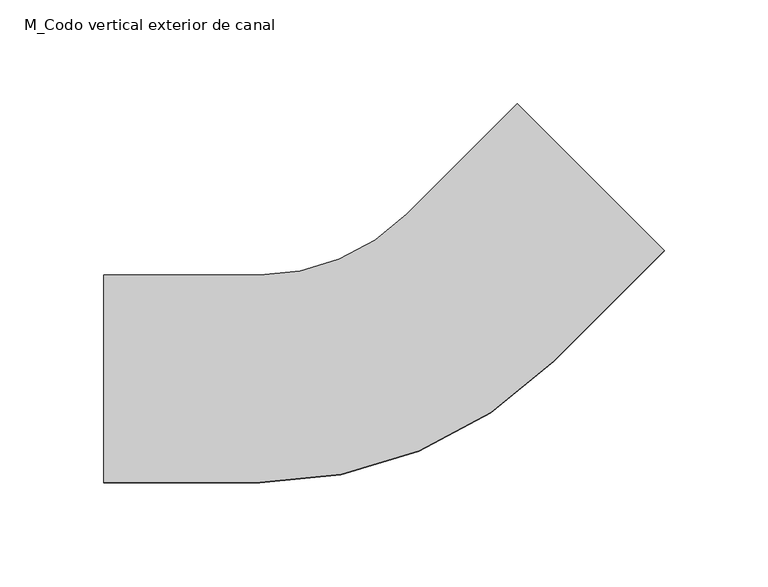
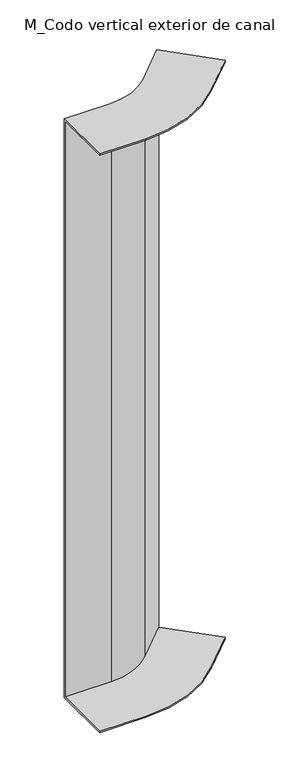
"""IFC4 building model written with IfcOpenShell, lengths in millimetres: cable carrier fitting geometry, M_Codo vertical exterior de canal : Gasos."""

from ifc_helpers import new_model, si_unit, frame, origin, place, context, project, spatial, polyline, circle_curve, source, transform, mapped, element, save
from ifc_brep_helpers import plane_surface, cylinder_surface, revolved_surface, advanced_brep


def m_codo_vertical_exterior_de_canal_8e3e9273(model_context):
    return source(origin(), model_context, "Body", "AdvancedBrep", [
        advanced_brep(
        [(-137.1320344, -50.0, 500.0), (-137.1320344, 50.0, 500.0), (-137.1320344, 50.0, -500.0), (-137.1320344, -50.0, -500.0), (-137.1320344, -50.0, -497.46), (-137.1320344, 47.46, -497.46), (-137.1320344, 47.46, 497.46), (-137.1320344, -50.0, 497.46), (132.3223305, 61.6116524, 500.0), (132.3223305, 61.6116524, 497.46), (63.4077036, 130.5262793, 497.46), (63.4077036, 130.5262793, -497.46), (132.3223305, 61.6116524, -497.46), (132.3223305, 61.6116524, -500.0), (61.6116524, 132.3223305, -500.0), (61.6116524, 132.3223305, 500.0), (-62.1320344, -50.0, 500.0), (79.2893219, 8.5786438, 500.0), (8.5786438, 79.2893219, 500.0), (-62.1320344, 50.0, 500.0), (-62.1320344, 50.0, -500.0), (8.5786438, 79.2893219, -500.0), (79.2893219, 8.5786438, -500.0), (-62.1320344, -50.0, -500.0), (-62.1320344, -50.0, -497.46), (79.2893219, 8.5786438, -497.46), (10.374695, 77.4932707, -497.46), (-62.1320344, 47.46, -497.46), (-62.1320344, 47.46, 497.46), (10.374695, 77.4932707, 497.46), (79.2893219, 8.5786438, 497.46), (-62.1320344, -50.0, 497.46)],
        [
            (0, 1),
            (1, 2),
            (2, 3),
            (3, 4),
            (4, 5),
            (5, 6),
            (6, 7),
            (7, 0),
            (8, 9),
            (9, 10),
            (10, 11),
            (11, 12),
            (12, 13),
            (13, 14),
            (14, 15),
            (15, 8),
            (0, 16),
            (16, 17, circle_curve(frame((-62.1320344, 150.0, 500.0), z_axis=(0.0, 0.0, 1.0), x_axis=(0.0, -1.0, 0.0)), 200.0)),
            (17, 8),
            (15, 18),
            (18, 19, circle_curve(frame((-62.1320344, 150.0, 500.0), z_axis=(0.0, 0.0, -1.0), x_axis=(0.0, -1.0, 0.0)), 100.0)),
            (19, 1),
            (19, 20),
            (20, 2),
            (20, 21, circle_curve(frame((-62.1320344, 150.0, -500.0), z_axis=(0.0, 0.0, 1.0), x_axis=(0.0, -1.0, 0.0)), 100.0)),
            (21, 14),
            (13, 22),
            (22, 23, circle_curve(frame((-62.1320344, 150.0, -500.0), z_axis=(0.0, 0.0, -1.0), x_axis=(0.0, -1.0, 0.0)), 200.0)),
            (23, 3),
            (23, 24),
            (24, 4),
            (24, 25, circle_curve(frame((-62.1320344, 150.0, -497.46), z_axis=(0.0, 0.0, 1.0), x_axis=(0.0, -1.0, 0.0)), 200.0)),
            (25, 12),
            (11, 26),
            (26, 27, circle_curve(frame((-62.1320344, 150.0, -497.46), z_axis=(0.0, 0.0, -1.0), x_axis=(0.0, -1.0, 0.0)), 102.54)),
            (27, 5),
            (27, 28),
            (28, 6),
            (28, 29, circle_curve(frame((-62.1320344, 150.0, 497.46), z_axis=(0.0, 0.0, 1.0), x_axis=(0.0, -1.0, 0.0)), 102.54)),
            (29, 10),
            (9, 30),
            (30, 31, circle_curve(frame((-62.1320344, 150.0, 497.46), z_axis=(0.0, 0.0, -1.0), x_axis=(0.0, -1.0, 0.0)), 200.0)),
            (31, 7),
            (31, 16),
            (18, 21),
            (22, 25),
            (26, 29),
            (30, 17),
        ],
        [
            plane_surface(frame((-137.1320344, 0.0, 0.0), z_axis=(-1.0, 0.0, 0.0), x_axis=(0.0, 0.0, 1.0))),
            plane_surface(frame((96.9669914, 96.9669914, 0.0), z_axis=(0.7071067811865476, 0.7071067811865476, 0.0), x_axis=(0.0, 0.0, 1.0))),
            plane_surface(frame((-137.1320344, -50.0, 500.0), z_axis=(0.0, 0.0, 1.0), x_axis=(1.0, 0.0, 0.0))),
            plane_surface(frame((-137.1320344, 50.0, 500.0), z_axis=(0.0, 1.0, 0.0), x_axis=(1.0, 0.0, 0.0))),
            plane_surface(frame((-137.1320344, 50.0, -500.0), z_axis=(0.0, 0.0, -1.0), x_axis=(1.0, 0.0, 0.0))),
            plane_surface(frame((-137.1320344, -50.0, -500.0), z_axis=(0.0, -1.0, 0.0), x_axis=(1.0, 0.0, 0.0))),
            plane_surface(frame((-137.1320344, -50.0, -497.46), z_axis=(0.0, 0.0, 1.0), x_axis=(1.0, 0.0, 0.0))),
            plane_surface(frame((-137.1320344, 47.46, -497.46), z_axis=(0.0, -1.0, 0.0), x_axis=(1.0, 0.0, 0.0))),
            plane_surface(frame((-137.1320344, 47.46, 497.46), z_axis=(0.0, 0.0, -1.0), x_axis=(1.0, 0.0, 0.0))),
            plane_surface(frame((-137.1320344, -50.0, 497.46), z_axis=(0.0, -1.0, 0.0), x_axis=(1.0, 0.0, 0.0))),
            revolved_surface(polyline([(-62.1320344, 50.0, 500.0), (-62.1320344, 50.0, -500.0)]), (-62.1320344, 150.0, 0.0), (0.0, 0.0, 1.0)),
            cylinder_surface(frame((-62.1320344, 150.0, 0.0), z_axis=(0.0, 0.0, 1.0), x_axis=(0.0, -1.0, 0.0)), 200.0),
            cylinder_surface(frame((-62.1320344, 150.0, 0.0), z_axis=(0.0, 0.0, 1.0), x_axis=(0.0, -1.0, 0.0)), 102.54),
            plane_surface(frame((8.5786438, 79.2893219, 500.0), z_axis=(-0.7071067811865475, 0.7071067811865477, 0.0), x_axis=(0.7071067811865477, 0.7071067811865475, 0.0))),
            plane_surface(frame((79.2893219, 8.5786438, -500.0), z_axis=(0.707106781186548, -0.707106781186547, 0.0), x_axis=(0.707106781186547, 0.707106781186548, 0.0))),
            plane_surface(frame((10.374695, 77.4932707, -497.46), z_axis=(0.7071067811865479, -0.7071067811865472, 0.0), x_axis=(0.7071067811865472, 0.7071067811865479, 0.0))),
            plane_surface(frame((79.2893219, 8.5786438, 497.46), z_axis=(0.707106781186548, -0.707106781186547, 0.0), x_axis=(0.707106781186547, 0.707106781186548, 0.0))),
        ],
        [
            (0, [[1, 2, 3, 4, 5, 6, 7, 8]]),
            (1, [[9, 10, 11, 12, 13, 14, 15, 16]]),
            (2, [[-1, 17, 18, 19, -16, 20, 21, 22]]),
            (3, [[-2, -22, 23, 24]]),
            (4, [[-3, -24, 25, 26, -14, 27, 28, 29]]),
            (5, [[-4, -29, 30, 31]]),
            (6, [[-5, -31, 32, 33, -12, 34, 35, 36]]),
            (7, [[-6, -36, 37, 38]]),
            (8, [[-7, -38, 39, 40, -10, 41, 42, 43]]),
            (9, [[-8, -43, 44, -17]]),
            (10, [[-25, -23, -21, 45]]),
            (11, [[-32, -30, -28, 46]]),
            (12, [[-39, -37, -35, 47]]),
            (11, [[-18, -44, -42, 48]]),
            (13, [[-45, -20, -15, -26]]),
            (14, [[-46, -27, -13, -33]]),
            (15, [[-47, -34, -11, -40]]),
            (16, [[-48, -41, -9, -19]]),
        ],
    ),
    ])


if __name__ == "__main__":
    model = new_model("IFC4")
    model_context = context("Model", 3, world=origin())
    ifc_project = project(units=[si_unit("LENGTHUNIT", "METRE", prefix="MILLI")], contexts=[model_context])
    site = spatial("IfcSite", under=ifc_project)
    building = spatial("IfcBuilding", under=site)
    placement = place(None, origin())
    m_codo_vertical_exterior_de_canal_shape = m_codo_vertical_exterior_de_canal_8e3e9273(model_context)
    element("IfcCableCarrierFitting", 1, ObjectType="M_Codo vertical exterior de canal : Gasos", at=placement, inside=building, context=model_context, shape_type="MappedRepresentation", body=[
        mapped(m_codo_vertical_exterior_de_canal_shape, transform((0.0, 0.0, 0.0), x_axis=(1.0, 0.0, 0.0), y_axis=(0.0, 1.0, 0.0), z_axis=(0.0, 0.0, 1.0))),
    ])
    save(model, "model.ifc")
